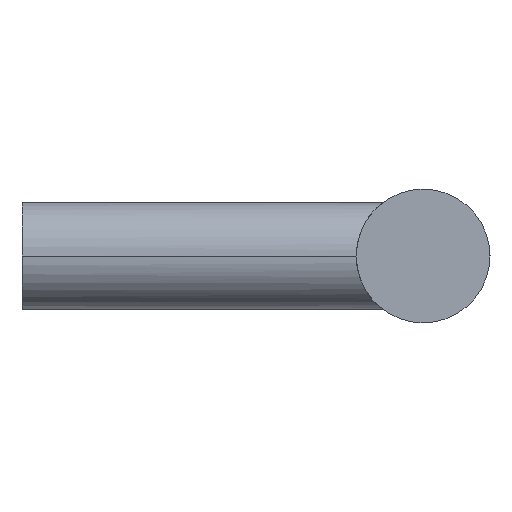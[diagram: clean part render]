
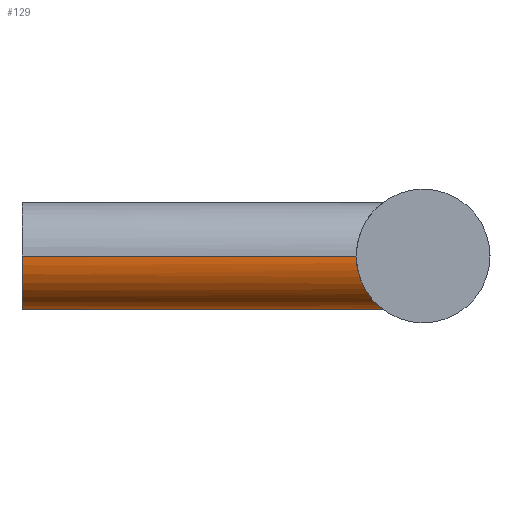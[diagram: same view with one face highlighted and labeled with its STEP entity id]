
A CAD part, left-side view. The second image highlights one B-rep face of the part: STEP entity #129.
In plain terms, the highlighted cylindrical face has radius 4 mm (diameter 8 mm), a partial arc.
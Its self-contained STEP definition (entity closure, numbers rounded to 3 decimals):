
#107 = EDGE_CURVE( '', #163, #133, #267, .T. );
#109 = EDGE_CURVE( '', #157, #133, #269, .T. );
#119 = VERTEX_POINT( '', #282 );
#129 = ADVANCED_FACE( '', ( #293 ), #294, .T. );
#133 = VERTEX_POINT( '', #298 );
#157 = VERTEX_POINT( '', #326 );
#163 = VERTEX_POINT( '', #332 );
#195 = EDGE_CURVE( '', #163, #119, #367, .T. );
#205 = EDGE_CURVE( '', #157, #119, #377, .T. );
#267 = LINE( '', #454, #455 );
#269 = B_SPLINE_CURVE_WITH_KNOTS( '', 3, ( #458, #459, #460, #461, #462, #463, #464, #465, #466, #467, #468, #469, #470, #471, #472, #473, #474, #475, #476, #477, #478, #479, #480, #481, #482, #483, #484, #485, #486, #487, #488, #489, #490, #491 ), .UNSPECIFIED., .F., .F., ( 4, 2, 2, 2, 2, 2, 2, 2, 2, 2, 2, 2, 2, 2, 2, 2, 4 ), ( 6.46, 7.255, 8.05, 8.845, 9.639, 10.46, 11.28, 12.1, 12.921, 13.741, 14.561, 15.381, 16.202, 16.997, 17.791, 18.586, 19.381 ), .UNSPECIFIED. );
#282 = CARTESIAN_POINT( '', ( -4., 0., 0. ) );
#293 = FACE_OUTER_BOUND( '', #520, .T. );
#294 = CYLINDRICAL_SURFACE( '', #521, 4. );
#298 = CARTESIAN_POINT( '', ( 4., -25., 0. ) );
#326 = CARTESIAN_POINT( '', ( -4., -25., 0. ) );
#332 = CARTESIAN_POINT( '', ( 4., 0., 0. ) );
#367 = CIRCLE( '', #667, 4. );
#377 = LINE( '', #680, #681 );
#454 = CARTESIAN_POINT( '', ( 4., 0., 0. ) );
#455 = VECTOR( '', #766, 1. );
#458 = CARTESIAN_POINT( '', ( -4., -25., 0. ) );
#459 = CARTESIAN_POINT( '', ( -4., -25., -0.265 ) );
#460 = CARTESIAN_POINT( '', ( -3.973, -25.021, -0.535 ) );
#461 = CARTESIAN_POINT( '', ( -3.865, -25.107, -1.064 ) );
#462 = CARTESIAN_POINT( '', ( -3.784, -25.171, -1.323 ) );
#463 = CARTESIAN_POINT( '', ( -3.575, -25.333, -1.813 ) );
#464 = CARTESIAN_POINT( '', ( -3.447, -25.431, -2.045 ) );
#465 = CARTESIAN_POINT( '', ( -3.158, -25.645, -2.468 ) );
#466 = CARTESIAN_POINT( '', ( -2.997, -25.761, -2.66 ) );
#467 = CARTESIAN_POINT( '', ( -2.654, -25.996, -3.002 ) );
#468 = CARTESIAN_POINT( '', ( -2.459, -26.124, -3.165 ) );
#469 = CARTESIAN_POINT( '', ( -2.035, -26.379, -3.453 ) );
#470 = CARTESIAN_POINT( '', ( -1.807, -26.505, -3.578 ) );
#471 = CARTESIAN_POINT( '', ( -1.324, -26.728, -3.784 ) );
#472 = CARTESIAN_POINT( '', ( -1.07, -26.825, -3.864 ) );
#473 = CARTESIAN_POINT( '', ( -0.545, -26.962, -3.972 ) );
#474 = CARTESIAN_POINT( '', ( -0.273, -27., -4. ) );
#475 = CARTESIAN_POINT( '', ( 0.273, -27., -4. ) );
#476 = CARTESIAN_POINT( '', ( 0.545, -26.962, -3.972 ) );
#477 = CARTESIAN_POINT( '', ( 1.07, -26.825, -3.864 ) );
#478 = CARTESIAN_POINT( '', ( 1.324, -26.728, -3.784 ) );
#479 = CARTESIAN_POINT( '', ( 1.807, -26.505, -3.578 ) );
#480 = CARTESIAN_POINT( '', ( 2.035, -26.379, -3.453 ) );
#481 = CARTESIAN_POINT( '', ( 2.459, -26.124, -3.165 ) );
#482 = CARTESIAN_POINT( '', ( 2.654, -25.996, -3.002 ) );
#483 = CARTESIAN_POINT( '', ( 2.997, -25.761, -2.66 ) );
#484 = CARTESIAN_POINT( '', ( 3.158, -25.645, -2.468 ) );
#485 = CARTESIAN_POINT( '', ( 3.447, -25.431, -2.045 ) );
#486 = CARTESIAN_POINT( '', ( 3.575, -25.333, -1.813 ) );
#487 = CARTESIAN_POINT( '', ( 3.784, -25.171, -1.323 ) );
#488 = CARTESIAN_POINT( '', ( 3.865, -25.107, -1.064 ) );
#489 = CARTESIAN_POINT( '', ( 3.973, -25.021, -0.535 ) );
#490 = CARTESIAN_POINT( '', ( 4., -25., -0.265 ) );
#491 = CARTESIAN_POINT( '', ( 4., -25., 0. ) );
#520 = EDGE_LOOP( '', ( #802, #803, #804, #805 ) );
#521 = AXIS2_PLACEMENT_3D( '', #806, #807, #808 );
#667 = AXIS2_PLACEMENT_3D( '', #884, #885, #886 );
#680 = CARTESIAN_POINT( '', ( -4., 0., 0. ) );
#681 = VECTOR( '', #897, 1. );
#766 = DIRECTION( '', ( 0., -1., 0. ) );
#802 = ORIENTED_EDGE( '', *, *, #107, .T. );
#803 = ORIENTED_EDGE( '', *, *, #109, .F. );
#804 = ORIENTED_EDGE( '', *, *, #205, .T. );
#805 = ORIENTED_EDGE( '', *, *, #195, .F. );
#806 = CARTESIAN_POINT( '', ( 0., 0., 0. ) );
#807 = DIRECTION( '', ( 0., 1., 0. ) );
#808 = DIRECTION( '', ( 1., 0., 0. ) );
#884 = CARTESIAN_POINT( '', ( 0., 0., 0. ) );
#885 = DIRECTION( '', ( 0., 1., 0. ) );
#886 = DIRECTION( '', ( 1., 0., 0. ) );
#897 = DIRECTION( '', ( 0., 1., 0. ) );
